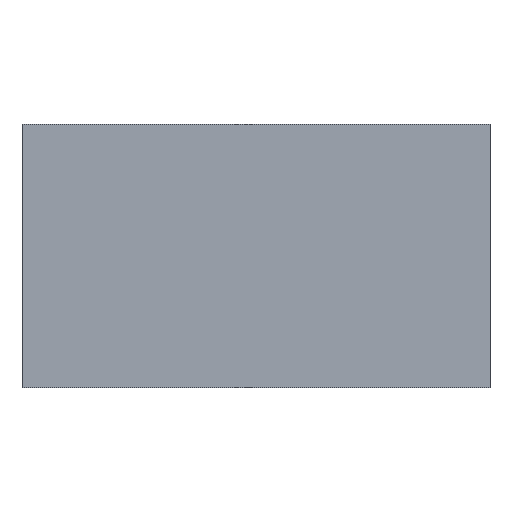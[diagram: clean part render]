
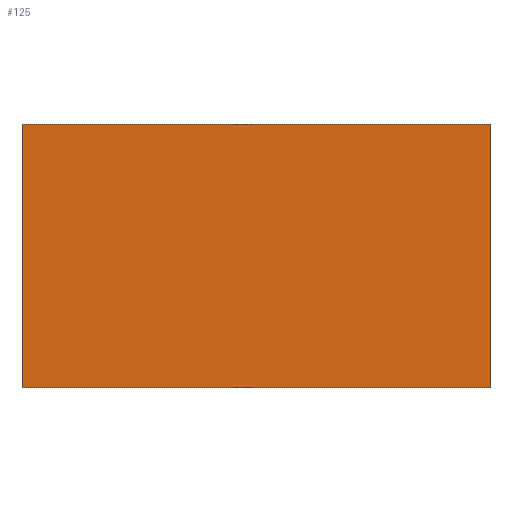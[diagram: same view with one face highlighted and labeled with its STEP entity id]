
A CAD part, front view. The second image highlights one B-rep face of the part: STEP entity #125.
In plain terms, the highlighted planar face has unit normal (0, -1, 0).
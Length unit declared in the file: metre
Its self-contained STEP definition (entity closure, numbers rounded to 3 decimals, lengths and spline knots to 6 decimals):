
#23=ORIENTED_EDGE('',*,*,#51,.F.);
#24=ORIENTED_EDGE('',*,*,#52,.F.);
#25=ORIENTED_EDGE('',*,*,#53,.T.);
#26=ORIENTED_EDGE('',*,*,#54,.T.);
#51=EDGE_CURVE('',#65,#66,#75,.T.);
#52=EDGE_CURVE('',#67,#65,#76,.T.);
#53=EDGE_CURVE('',#67,#68,#77,.T.);
#54=EDGE_CURVE('',#68,#66,#78,.T.);
#65=VERTEX_POINT('',#189);
#66=VERTEX_POINT('',#190);
#67=VERTEX_POINT('',#192);
#68=VERTEX_POINT('',#194);
#75=LINE('',#188,#87);
#76=LINE('',#191,#88);
#77=LINE('',#193,#89);
#78=LINE('',#195,#90);
#87=VECTOR('',#158,1.);
#88=VECTOR('',#159,1.);
#89=VECTOR('',#160,1.);
#90=VECTOR('',#161,1.);
#99=EDGE_LOOP('',(#23,#24,#25,#26));
#109=FACE_BOUND('',#99,.T.);
#119=PLANE('',#145);
#125=ADVANCED_FACE('',(#109),#119,.T.);
#145=AXIS2_PLACEMENT_3D('',#187,#156,#157);
#156=DIRECTION('',(0.,-1.,0.));
#157=DIRECTION('',(0.,0.,-1.));
#158=DIRECTION('',(0.,0.,-1.));
#159=DIRECTION('',(1.,0.,0.));
#160=DIRECTION('',(0.,0.,-1.));
#161=DIRECTION('',(1.,0.,0.));
#187=CARTESIAN_POINT('',(-0.375,-0.09,0.));
#188=CARTESIAN_POINT('',(-0.055,-0.09,0.));
#189=CARTESIAN_POINT('',(-0.055,-0.09,0.09));
#190=CARTESIAN_POINT('',(-0.055,-0.09,-0.09));
#191=CARTESIAN_POINT('',(-0.375,-0.09,0.09));
#192=CARTESIAN_POINT('',(-0.375,-0.09,0.09));
#193=CARTESIAN_POINT('',(-0.375,-0.09,0.));
#194=CARTESIAN_POINT('',(-0.375,-0.09,-0.09));
#195=CARTESIAN_POINT('',(-0.375,-0.09,-0.09));
